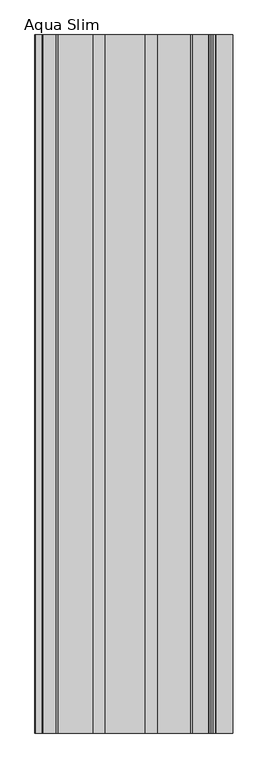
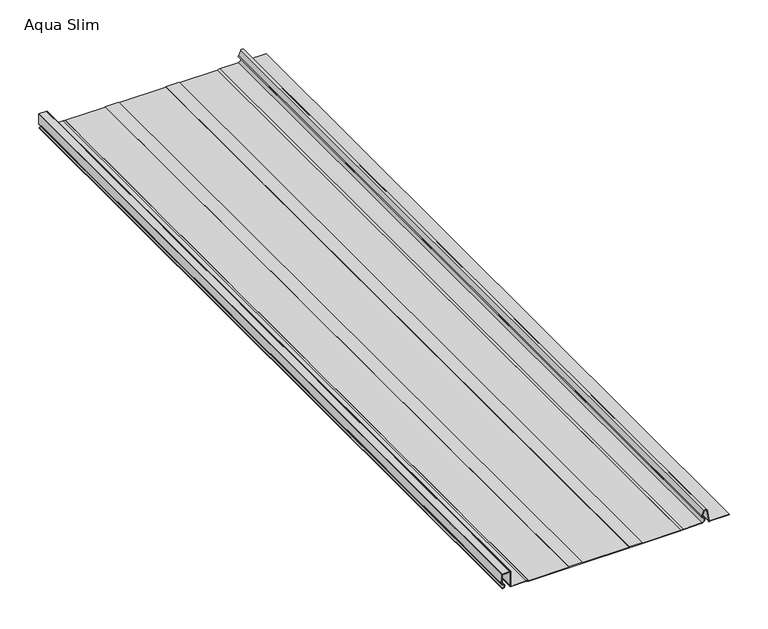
"""IFC4 building model written with IfcOpenShell, lengths in millimetres: proxy geometry, AQUAPLAST - Panel Dachowy i Elewacyjny Aqua Slim : Aqua Slim."""

from ifc_helpers import new_model, si_unit, point, frame, frame_2d, origin, place, context, project, spatial, polyline, circle_curve, trimmed, segment, composite_curve, outline, extrude, source, transform, mapped, element, save


def aqua_slim_ff869719(model_context):
    return source(origin(), model_context, "Body", "SweptSolid", [
        extrude(outline(polyline([(50.8, 38.4), (51.6, 38.4), (51.6, 18.4), (50.8, 18.4), (50.8, -51.6), (51.6, -51.6), (51.6, -71.6), (50.8, -71.6), (50.8, -131.5), (50.0, -131.5), (50.0, 95.7000503), (50.8, 95.7000503), (50.8, 38.4)])), frame((0.0, -1200.0, 0.0), z_axis=(0.0, 1.0, 0.0), x_axis=(0.0, 0.0, 1.0)), (0.0, 0.0, 1.0), 1200.0),
        extrude(outline(composite_curve([segment(polyline([(50.8, 168.4), (50.8, 138.958412)]), True, "CONTINUOUS"), segment(trimmed(circle_curve(frame_2d((51.4640676, 138.958412)), 0.6640676), [point((50.8, 138.958412))], [point((51.3501315, 138.3041916))], True, "CARTESIAN"), True, "CONTINUOUS"), segment(polyline([(51.3501315, 138.3041916), (68.7653554, 135.2712349)]), True, "CONTINUOUS"), segment(trimmed(circle_curve(frame_2d((68.1818617, 132.6281389)), 2.7067363), [point((68.7653554, 135.2712349))], [point((69.5352298, 130.2840366))], False, "CARTESIAN"), True, "CONTINUOUS"), segment(polyline([(69.5352298, 130.2840366), (62.1941629, 127.3237764)]), True, "CONTINUOUS"), segment(trimmed(circle_curve(frame_2d((61.2676679, 129.6213657)), 2.4773594), [point((62.1941629, 127.3237764))], [point((59.0024093, 128.6184133))], False, "CARTESIAN"), True, "CONTINUOUS"), segment(trimmed(circle_curve(frame_2d((55.4667311, 127.0529775)), 3.8667311), [point((59.0024093, 128.6184133))], [point((51.6, 127.0529775))], True, "CARTESIAN"), True, "CONTINUOUS"), segment(polyline([(51.6, 127.0529775), (51.6, 99.2000503), (50.8, 95.7000503), (50.0, 95.7000503), (50.8, 99.2000503), (50.8, 126.8938021)]), True, "CONTINUOUS"), segment(trimmed(circle_curve(frame_2d((55.5014361, 126.8938021)), 4.7014361), [point((50.8, 126.8938021))], [point((59.7513874, 128.9041293))], False, "CARTESIAN"), True, "CONTINUOUS"), segment(trimmed(circle_curve(frame_2d((61.2676679, 129.6213657)), 1.6773594), [point((59.7513874, 128.9041293))], [point((61.8934079, 128.0650932))], True, "CARTESIAN"), True, "CONTINUOUS"), segment(polyline([(61.8934079, 128.0650932), (69.1352298, 130.9768569)]), True, "CONTINUOUS"), segment(trimmed(circle_curve(frame_2d((68.1818617, 132.6281389)), 1.9067363), [point((69.1352298, 130.9768569))], [point((68.4803326, 134.5113697))], True, "CARTESIAN"), True, "CONTINUOUS"), segment(polyline([(68.4803326, 134.5113697), (50.6241817, 137.3413691)]), True, "CONTINUOUS"), segment(trimmed(circle_curve(frame_2d((50.7400208, 138.0722673)), 0.7400208), [point((50.6241817, 137.3413691))], [point((50.0, 138.0722673))], False, "CARTESIAN"), True, "CONTINUOUS"), segment(polyline([(50.0, 138.0722673), (50.0, 168.4), (50.8, 168.4)]), True, "CONTINUOUS")], self_intersect=False)), frame((0.0, -1200.0, 0.0), z_axis=(0.0, 1.0, 0.0), x_axis=(0.0, 0.0, 1.0)), (0.0, 0.0, 1.0), 1200.0),
        extrude(outline(composite_curve([segment(polyline([(51.6, -135.0), (51.6, -158.1)]), True, "CONTINUOUS"), segment(trimmed(circle_curve(frame_2d((52.1, -158.1)), 0.5), [point((51.6, -158.1))], [point((52.1, -158.6))], True, "CARTESIAN"), True, "CONTINUOUS"), segment(polyline([(52.1, -158.6), (74.5, -158.6)]), True, "CONTINUOUS"), segment(trimmed(circle_curve(frame_2d((74.5, -159.1)), 0.5), [point((74.5, -158.6))], [point((75.0, -159.1))], False, "CARTESIAN"), True, "CONTINUOUS"), segment(polyline([(75.0, -159.1), (75.0, -171.1)]), True, "CONTINUOUS"), segment(trimmed(circle_curve(frame_2d((74.5, -171.1)), 0.5), [point((75.0, -171.1))], [point((74.5, -171.6))], False, "CARTESIAN"), True, "CONTINUOUS"), segment(polyline([(74.5, -171.6), (58.8039223, -171.6)]), True, "CONTINUOUS"), segment(trimmed(circle_curve(frame_2d((58.8039223, -170.9250457)), 0.6749543), [point((58.8039223, -171.6))], [point((58.1289934, -170.9191923))], False, "CARTESIAN"), True, "CONTINUOUS"), segment(trimmed(circle_curve(frame_2d((55.3847863, -170.9191923)), 2.7442071), [point((58.1289934, -170.9191923))], [point((52.6405793, -170.9191923))], True, "CARTESIAN"), True, "CONTINUOUS"), segment(polyline([(52.6405793, -170.9191923), (51.8403383, -170.9191923)]), True, "CONTINUOUS"), segment(trimmed(circle_curve(frame_2d((55.4137846, -170.9191923)), 3.5734462), [point((51.8403383, -170.9191923))], [point((58.9478642, -170.3902321))], False, "CARTESIAN"), True, "CONTINUOUS"), segment(trimmed(circle_curve(frame_2d((59.7850119, -169.9539484)), 0.9440125), [point((58.9478642, -170.3902321))], [point((59.7850119, -170.897961))], True, "CARTESIAN"), True, "CONTINUOUS"), segment(polyline([(59.7850119, -170.897961), (73.6993591, -170.897961)]), True, "CONTINUOUS"), segment(trimmed(circle_curve(frame_2d((73.6993591, -170.3966773)), 0.5012837), [point((73.6993591, -170.897961))], [point((74.2006428, -170.3966773))], True, "CARTESIAN"), True, "CONTINUOUS"), segment(polyline([(74.2006428, -170.3966773), (74.2006428, -159.9001579)]), True, "CONTINUOUS"), segment(trimmed(circle_curve(frame_2d((73.7003195, -159.9001579)), 0.5003233), [point((74.2006428, -159.9001579))], [point((73.7003195, -159.3998346))], True, "CARTESIAN"), True, "CONTINUOUS"), segment(polyline([(73.7003195, -159.3998346), (51.2999699, -159.3998346)]), True, "CONTINUOUS"), segment(trimmed(circle_curve(frame_2d((51.2999699, -158.8999248)), 0.4999098), [point((51.2999699, -159.3998346))], [point((50.8000601, -158.8999248))], False, "CARTESIAN"), True, "CONTINUOUS"), segment(polyline([(50.8000601, -158.8999248), (50.8000601, -135.0), (50.0, -131.5), (50.8, -131.5), (51.6, -135.0)]), True, "CONTINUOUS")], self_intersect=False)), frame((0.0, -1200.0, 0.0), z_axis=(0.0, 1.0, 0.0), x_axis=(0.0, 0.0, 1.0)), (0.0, 0.0, 1.0), 1200.0),
    ])


if __name__ == "__main__":
    model = new_model("IFC4")
    model_context = context("Model", 3, world=origin())
    ifc_project = project(units=[si_unit("LENGTHUNIT", "METRE", prefix="MILLI")], contexts=[model_context])
    site = spatial("IfcSite", under=ifc_project)
    building = spatial("IfcBuilding", under=site)
    placement = place(None, origin())
    aqua_slim_shape = aqua_slim_ff869719(model_context)
    element("IfcBuildingElementProxy", 1, Name="AQUAPLAST - Panel Dachowy i Elewacyjny Aqua Slim : Aqua Slim", ObjectType="AQUAPLAST - Panel Dachowy i Elewacyjny Aqua Slim : Aqua Slim", at=placement, inside=building, context=model_context, shape_type="MappedRepresentation", body=[
        mapped(aqua_slim_shape, transform((0.0, 0.0, 0.0), x_axis=(1.0, 0.0, 0.0), y_axis=(0.0, 1.0, 0.0), z_axis=(0.0, 0.0, 1.0))),
    ])
    save(model, "model.ifc")
